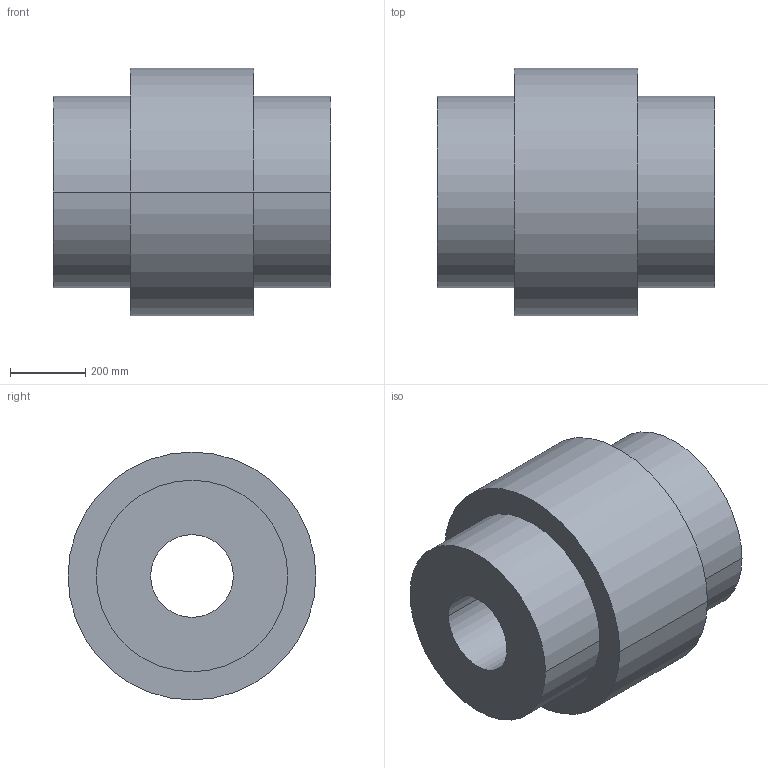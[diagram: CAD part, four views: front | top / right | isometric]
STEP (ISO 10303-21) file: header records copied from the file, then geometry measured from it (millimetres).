
FILE_DESCRIPTION((''),'2;1');
FILE_NAME('A19134500-0_ASM','2018-11-15T',('AB_Roschiwal'),('RENK AG'),'PRO/ENGINEER BY PARAMETRIC TECHNOLOGY CORPORATION, 2015440','PRO/ENGINEER BY PARAMETRIC TECHNOLOGY CORPORATION, 2015440','');
FILE_SCHEMA(('CONFIG_CONTROL_DESIGN'));
Length unit declared in the file: millimetre
Products named in the file (3): HBK315_GEHAEUSE; HBK315_NABE; A19134500-0_ASM
Assembly tree (3 placements, depth 2):
  A19134500-0_ASM
    HBK315_GEHAEUSE
    HBK315_NABE  x2
Bounding box: 740 x 660 x 660 mm (x, y, z)
Volume: 155148677.9 mm3; surface area: 4345922.2 mm2
Topology: 3 solids, 3 shells, 36 faces, 72 edges, 48 vertices
Faces by surface type: cylinder 24, plane 12
Entity records: 748 total; most frequent: DIRECTION 140, CARTESIAN_POINT 110, ORIENTED_EDGE 96, AXIS2_PLACEMENT_3D 62, EDGE_CURVE 48, VERTEX_POINT 32, EDGE_LOOP 32, CIRCLE 32
